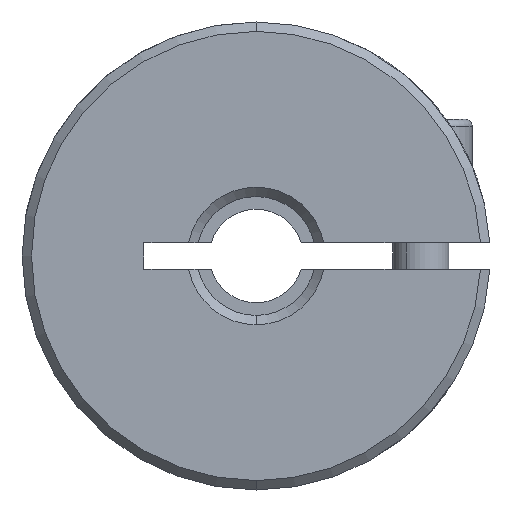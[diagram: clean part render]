
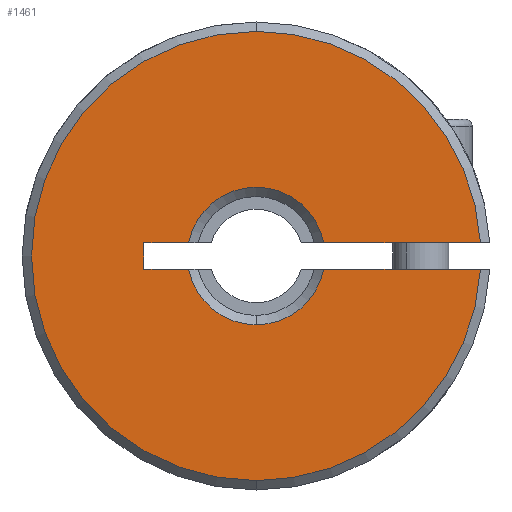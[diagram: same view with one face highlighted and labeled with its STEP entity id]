
A CAD part, front view. The second image highlights one B-rep face of the part: STEP entity #1461.
In plain terms, the highlighted planar face has unit normal (0, -1, 0).
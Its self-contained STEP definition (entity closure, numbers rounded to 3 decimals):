
#18 = CARTESIAN_POINT ( 'NONE',  ( 0., 0.25, 0. ) ) ;
#29 = CARTESIAN_POINT ( 'NONE',  ( 0., 0.25, 0. ) ) ;
#101 = DIRECTION ( 'NONE',  ( 0., 0., 1. ) ) ;
#194 = DIRECTION ( 'NONE',  ( 0., -1., 0. ) ) ;
#205 = CIRCLE ( 'NONE', #3337, 3.675 ) ;
#222 = CARTESIAN_POINT ( 'NONE',  ( -50., 0.25, 17.349 ) ) ;
#283 = DIRECTION ( 'NONE',  ( 0., 0., 1. ) ) ;
#307 = ORIENTED_EDGE ( 'NONE', *, *, #1472, .F. ) ;
#327 = DIRECTION ( 'NONE',  ( -1., 0., 0. ) ) ;
#350 = LINE ( 'NONE', #2636, #4329 ) ;
#519 = ORIENTED_EDGE ( 'NONE', *, *, #3194, .F. ) ;
#556 = EDGE_CURVE ( 'NONE', #5580, #5305, #2848, .T. ) ;
#621 = VECTOR ( 'NONE', #5210, 1000. ) ;
#630 = CARTESIAN_POINT ( 'NONE',  ( 0., 0.25, 0. ) ) ;
#650 = VERTEX_POINT ( 'NONE', #4853 ) ;
#730 = DIRECTION ( 'NONE',  ( 0., 0., 1. ) ) ;
#844 = VERTEX_POINT ( 'NONE', #3631 ) ;
#850 = DIRECTION ( 'NONE',  ( 0., 1., 0. ) ) ;
#891 = VERTEX_POINT ( 'NONE', #5448 ) ;
#1145 = ORIENTED_EDGE ( 'NONE', *, *, #5113, .F. ) ;
#1154 = EDGE_CURVE ( 'NONE', #891, #650, #5768, .T. ) ;
#1167 = ORIENTED_EDGE ( 'NONE', *, *, #2495, .T. ) ;
#1194 = CARTESIAN_POINT ( 'NONE',  ( -3.608, 0.25, 0.7 ) ) ;
#1224 = AXIS2_PLACEMENT_3D ( 'NONE', #222, #2036, #283 ) ;
#1373 = LINE ( 'NONE', #2579, #4931 ) ;
#1405 = CARTESIAN_POINT ( 'NONE',  ( 3.608, 0.25, 0.7 ) ) ;
#1458 = DIRECTION ( 'NONE',  ( 0., 1., 0. ) ) ;
#1461 = ADVANCED_FACE ( 'NONE', ( #4290 ), #3400, .F. ) ;
#1472 = EDGE_CURVE ( 'NONE', #2130, #3108, #5715, .T. ) ;
#1568 = CARTESIAN_POINT ( 'NONE',  ( -6., 0.25, 0.7 ) ) ;
#1572 = VECTOR ( 'NONE', #2586, 1000. ) ;
#1650 = CARTESIAN_POINT ( 'NONE',  ( -6., 0.25, 0.7 ) ) ;
#1664 = CARTESIAN_POINT ( 'NONE',  ( -6., 0.25, -0.7 ) ) ;
#1681 = LINE ( 'NONE', #1650, #621 ) ;
#1975 = CARTESIAN_POINT ( 'NONE',  ( 3.608, 0.25, -0.7 ) ) ;
#2036 = DIRECTION ( 'NONE',  ( 0., 1., 0. ) ) ;
#2130 = VERTEX_POINT ( 'NONE', #1568 ) ;
#2196 = DIRECTION ( 'NONE',  ( 0., 0., 1. ) ) ;
#2227 = AXIS2_PLACEMENT_3D ( 'NONE', #630, #3007, #5709 ) ;
#2379 = CIRCLE ( 'NONE', #3603, 3.675 ) ;
#2423 = DIRECTION ( 'NONE',  ( 0., 0., 1. ) ) ;
#2477 = VERTEX_POINT ( 'NONE', #1194 ) ;
#2495 = EDGE_CURVE ( 'NONE', #5305, #891, #4763, .T. ) ;
#2579 = CARTESIAN_POINT ( 'NONE',  ( -6., 0.25, 0.7 ) ) ;
#2586 = DIRECTION ( 'NONE',  ( 1., 0., 0. ) ) ;
#2619 = LINE ( 'NONE', #1664, #1572 ) ;
#2636 = CARTESIAN_POINT ( 'NONE',  ( -6., 0.25, -0.7 ) ) ;
#2668 = CARTESIAN_POINT ( 'NONE',  ( 0., 0.25, 0. ) ) ;
#2756 = CARTESIAN_POINT ( 'NONE',  ( 11.98, 0.25, 0.7 ) ) ;
#2800 = CARTESIAN_POINT ( 'NONE',  ( -3.608, 0.25, -0.7 ) ) ;
#2848 = CIRCLE ( 'NONE', #4644, 12. ) ;
#2950 = CIRCLE ( 'NONE', #5139, 3.675 ) ;
#2959 = EDGE_CURVE ( 'NONE', #3108, #3079, #2619, .T. ) ;
#3007 = DIRECTION ( 'NONE',  ( 0., -1., 0. ) ) ;
#3044 = ORIENTED_EDGE ( 'NONE', *, *, #5440, .T. ) ;
#3079 = VERTEX_POINT ( 'NONE', #2800 ) ;
#3108 = VERTEX_POINT ( 'NONE', #5000 ) ;
#3180 = ORIENTED_EDGE ( 'NONE', *, *, #4016, .F. ) ;
#3194 = EDGE_CURVE ( 'NONE', #2477, #2130, #1681, .T. ) ;
#3205 = DIRECTION ( 'NONE',  ( 1., 0., 0. ) ) ;
#3209 = ORIENTED_EDGE ( 'NONE', *, *, #556, .T. ) ;
#3337 = AXIS2_PLACEMENT_3D ( 'NONE', #29, #850, #2196 ) ;
#3391 = VERTEX_POINT ( 'NONE', #1975 ) ;
#3400 = PLANE ( 'NONE',  #1224 ) ;
#3453 = EDGE_LOOP ( 'NONE', ( #519, #5198, #1145, #3209, #1167, #5145, #3180, #3044, #5517, #5482, #307 ) ) ;
#3493 = AXIS2_PLACEMENT_3D ( 'NONE', #3539, #5663, #730 ) ;
#3539 = CARTESIAN_POINT ( 'NONE',  ( 0., 0.25, 0. ) ) ;
#3603 = AXIS2_PLACEMENT_3D ( 'NONE', #3719, #1458, #101 ) ;
#3631 = CARTESIAN_POINT ( 'NONE',  ( 0., 0.25, -3.675 ) ) ;
#3708 = EDGE_CURVE ( 'NONE', #844, #3079, #205, .T. ) ;
#3719 = CARTESIAN_POINT ( 'NONE',  ( 0., 0.25, 0. ) ) ;
#3868 = VECTOR ( 'NONE', #4788, 1000. ) ;
#4016 = EDGE_CURVE ( 'NONE', #3391, #650, #350, .T. ) ;
#4290 = FACE_OUTER_BOUND ( 'NONE', #3453, .T. ) ;
#4329 = VECTOR ( 'NONE', #3205, 1000. ) ;
#4481 = DIRECTION ( 'NONE',  ( 0., 1., 0. ) ) ;
#4644 = AXIS2_PLACEMENT_3D ( 'NONE', #18, #194, #2423 ) ;
#4763 = CIRCLE ( 'NONE', #2227, 12. ) ;
#4779 = EDGE_CURVE ( 'NONE', #2477, #4827, #2379, .T. ) ;
#4788 = DIRECTION ( 'NONE',  ( 0., 0., -1. ) ) ;
#4827 = VERTEX_POINT ( 'NONE', #1405 ) ;
#4853 = CARTESIAN_POINT ( 'NONE',  ( 11.98, 0.25, -0.7 ) ) ;
#4889 = DIRECTION ( 'NONE',  ( 0., 0., 1. ) ) ;
#4931 = VECTOR ( 'NONE', #327, 1000. ) ;
#5000 = CARTESIAN_POINT ( 'NONE',  ( -6., 0.25, -0.7 ) ) ;
#5113 = EDGE_CURVE ( 'NONE', #5580, #4827, #1373, .T. ) ;
#5139 = AXIS2_PLACEMENT_3D ( 'NONE', #2668, #4481, #4889 ) ;
#5145 = ORIENTED_EDGE ( 'NONE', *, *, #1154, .T. ) ;
#5198 = ORIENTED_EDGE ( 'NONE', *, *, #4779, .T. ) ;
#5206 = CARTESIAN_POINT ( 'NONE',  ( -6., 0.25, -0.7 ) ) ;
#5210 = DIRECTION ( 'NONE',  ( -1., 0., 0. ) ) ;
#5305 = VERTEX_POINT ( 'NONE', #5603 ) ;
#5440 = EDGE_CURVE ( 'NONE', #3391, #844, #2950, .T. ) ;
#5448 = CARTESIAN_POINT ( 'NONE',  ( 0., 0.25, -12. ) ) ;
#5482 = ORIENTED_EDGE ( 'NONE', *, *, #2959, .F. ) ;
#5517 = ORIENTED_EDGE ( 'NONE', *, *, #3708, .T. ) ;
#5580 = VERTEX_POINT ( 'NONE', #2756 ) ;
#5603 = CARTESIAN_POINT ( 'NONE',  ( 0., 0.25, 12. ) ) ;
#5663 = DIRECTION ( 'NONE',  ( 0., -1., 0. ) ) ;
#5709 = DIRECTION ( 'NONE',  ( 0., 0., 1. ) ) ;
#5715 = LINE ( 'NONE', #5206, #3868 ) ;
#5768 = CIRCLE ( 'NONE', #3493, 12. ) ;
